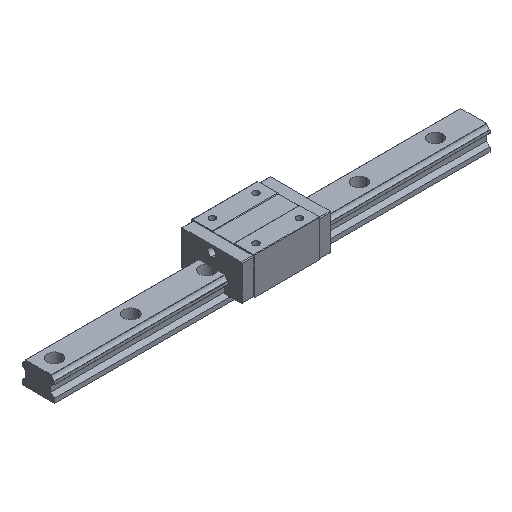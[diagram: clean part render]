
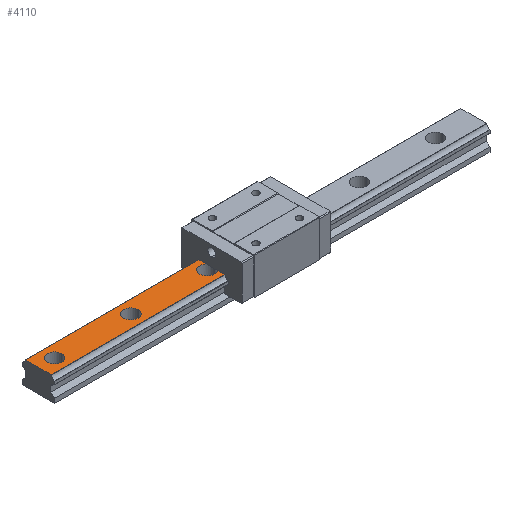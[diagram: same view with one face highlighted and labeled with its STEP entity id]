
A CAD part, isometric view. The second image highlights one B-rep face of the part: STEP entity #4110.
In plain terms, the highlighted planar face has unit normal (0, 0, 1).
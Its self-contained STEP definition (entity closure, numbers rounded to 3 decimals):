
#124 = DIRECTION ( 'NONE',  ( 1., 0., 0. ) ) ;
#164 = VERTEX_POINT ( 'NONE', #3261 ) ;
#264 = DIRECTION ( 'NONE',  ( -1., 0., 0. ) ) ;
#275 = CARTESIAN_POINT ( 'NONE',  ( -277.5, 0., 32. ) ) ;
#314 = VECTOR ( 'NONE', #4996, 1000. ) ;
#506 = CARTESIAN_POINT ( 'NONE',  ( 300., 0., 32. ) ) ;
#548 = DIRECTION ( 'NONE',  ( 0., 0., -1. ) ) ;
#563 = AXIS2_PLACEMENT_3D ( 'NONE', #1759, #2851, #4470 ) ;
#684 = DIRECTION ( 'NONE',  ( 0., 0., -1. ) ) ;
#700 = DIRECTION ( 'NONE',  ( -1., 0., 0. ) ) ;
#723 = VECTOR ( 'NONE', #1395, 1000. ) ;
#730 = CARTESIAN_POINT ( 'NONE',  ( -60.95, -25.138, 32. ) ) ;
#737 = DIRECTION ( 'NONE',  ( 0., -1., 0. ) ) ;
#774 = EDGE_LOOP ( 'NONE', ( #1889, #2889, #2881, #4081, #2468, #4819, #1961 ) ) ;
#803 = AXIS2_PLACEMENT_3D ( 'NONE', #2984, #3797, #700 ) ;
#807 = LINE ( 'NONE', #5020, #314 ) ;
#821 = AXIS2_PLACEMENT_3D ( 'NONE', #275, #3761, #2197 ) ;
#966 = EDGE_CURVE ( 'NONE', #2088, #2250, #3476, .T. ) ;
#974 = CIRCLE ( 'NONE', #2763, 10. ) ;
#1033 = EDGE_CURVE ( 'NONE', #4342, #1476, #807, .T. ) ;
#1109 = DIRECTION ( 'NONE',  ( -1., 0., 0. ) ) ;
#1131 = AXIS2_PLACEMENT_3D ( 'NONE', #4125, #3286, #264 ) ;
#1316 = DIRECTION ( 'NONE',  ( -1., 0., 0. ) ) ;
#1395 = DIRECTION ( 'NONE',  ( 0., 1., 0. ) ) ;
#1449 = EDGE_CURVE ( 'NONE', #4769, #4342, #4715, .T. ) ;
#1461 = CARTESIAN_POINT ( 'NONE',  ( -77.5, 0., 32. ) ) ;
#1476 = VERTEX_POINT ( 'NONE', #3905 ) ;
#1514 = CARTESIAN_POINT ( 'NONE',  ( -60.95, 17.738, 32. ) ) ;
#1565 = EDGE_CURVE ( 'NONE', #164, #2163, #3085, .T. ) ;
#1614 = EDGE_CURVE ( 'NONE', #1829, #1681, #974, .T. ) ;
#1641 = CARTESIAN_POINT ( 'NONE',  ( -60.95, 7.556, 32. ) ) ;
#1681 = VERTEX_POINT ( 'NONE', #4195 ) ;
#1759 = CARTESIAN_POINT ( 'NONE',  ( -67.5, 0., 32. ) ) ;
#1829 = VERTEX_POINT ( 'NONE', #3511 ) ;
#1889 = ORIENTED_EDGE ( 'NONE', *, *, #4009, .T. ) ;
#1942 = EDGE_LOOP ( 'NONE', ( #3629, #2256 ) ) ;
#1961 = ORIENTED_EDGE ( 'NONE', *, *, #1033, .T. ) ;
#2088 = VERTEX_POINT ( 'NONE', #1461 ) ;
#2163 = VERTEX_POINT ( 'NONE', #3182 ) ;
#2197 = DIRECTION ( 'NONE',  ( -1., 0., 0. ) ) ;
#2250 = VERTEX_POINT ( 'NONE', #1641 ) ;
#2256 = ORIENTED_EDGE ( 'NONE', *, *, #1614, .T. ) ;
#2346 = CIRCLE ( 'NONE', #2823, 10. ) ;
#2414 = EDGE_CURVE ( 'NONE', #2163, #164, #3010, .T. ) ;
#2437 = AXIS2_PLACEMENT_3D ( 'NONE', #506, #3264, #4765 ) ;
#2468 = ORIENTED_EDGE ( 'NONE', *, *, #3198, .F. ) ;
#2517 = LINE ( 'NONE', #3647, #4774 ) ;
#2763 = AXIS2_PLACEMENT_3D ( 'NONE', #4406, #548, #2911 ) ;
#2823 = AXIS2_PLACEMENT_3D ( 'NONE', #4588, #684, #1109 ) ;
#2851 = DIRECTION ( 'NONE',  ( 0., 0., -1. ) ) ;
#2881 = ORIENTED_EDGE ( 'NONE', *, *, #4278, .T. ) ;
#2889 = ORIENTED_EDGE ( 'NONE', *, *, #4163, .T. ) ;
#2898 = VECTOR ( 'NONE', #737, 1000. ) ;
#2911 = DIRECTION ( 'NONE',  ( -1., 0., 0. ) ) ;
#2984 = CARTESIAN_POINT ( 'NONE',  ( -67.5, 0., 32. ) ) ;
#2992 = CIRCLE ( 'NONE', #803, 10. ) ;
#3010 = CIRCLE ( 'NONE', #821, 10. ) ;
#3071 = CARTESIAN_POINT ( 'NONE',  ( -60.95, -17.738, 32. ) ) ;
#3085 = CIRCLE ( 'NONE', #1131, 10. ) ;
#3182 = CARTESIAN_POINT ( 'NONE',  ( -267.5, 0., 32. ) ) ;
#3195 = FACE_OUTER_BOUND ( 'NONE', #774, .T. ) ;
#3198 = EDGE_CURVE ( 'NONE', #4769, #2250, #3469, .T. ) ;
#3261 = CARTESIAN_POINT ( 'NONE',  ( -287.5, 0., 32. ) ) ;
#3264 = DIRECTION ( 'NONE',  ( 0., 0., -1. ) ) ;
#3286 = DIRECTION ( 'NONE',  ( 0., 0., -1. ) ) ;
#3469 = LINE ( 'NONE', #3071, #2898 ) ;
#3476 = CIRCLE ( 'NONE', #563, 10. ) ;
#3511 = CARTESIAN_POINT ( 'NONE',  ( -182.5, 0., 32. ) ) ;
#3616 = FACE_BOUND ( 'NONE', #4380, .T. ) ;
#3629 = ORIENTED_EDGE ( 'NONE', *, *, #3760, .T. ) ;
#3647 = CARTESIAN_POINT ( 'NONE',  ( 300., -17.738, 32. ) ) ;
#3760 = EDGE_CURVE ( 'NONE', #1681, #1829, #2346, .T. ) ;
#3761 = DIRECTION ( 'NONE',  ( 0., 0., -1. ) ) ;
#3797 = DIRECTION ( 'NONE',  ( 0., 0., -1. ) ) ;
#3905 = CARTESIAN_POINT ( 'NONE',  ( -300., -17.738, 32. ) ) ;
#4009 = EDGE_CURVE ( 'NONE', #1476, #4948, #2517, .T. ) ;
#4052 = VECTOR ( 'NONE', #1316, 1000. ) ;
#4081 = ORIENTED_EDGE ( 'NONE', *, *, #966, .T. ) ;
#4110 = ADVANCED_FACE ( 'NONE', ( #3616, #4407, #3195 ), #4741, .F. ) ;
#4125 = CARTESIAN_POINT ( 'NONE',  ( -277.5, 0., 32. ) ) ;
#4163 = EDGE_CURVE ( 'NONE', #4948, #4563, #4868, .T. ) ;
#4195 = CARTESIAN_POINT ( 'NONE',  ( -162.5, 0., 32. ) ) ;
#4278 = EDGE_CURVE ( 'NONE', #4563, #2088, #2992, .T. ) ;
#4306 = CARTESIAN_POINT ( 'NONE',  ( 300., 17.738, 32. ) ) ;
#4333 = ORIENTED_EDGE ( 'NONE', *, *, #2414, .T. ) ;
#4342 = VERTEX_POINT ( 'NONE', #4658 ) ;
#4380 = EDGE_LOOP ( 'NONE', ( #4333, #4954 ) ) ;
#4406 = CARTESIAN_POINT ( 'NONE',  ( -172.5, 0., 32. ) ) ;
#4407 = FACE_BOUND ( 'NONE', #1942, .T. ) ;
#4470 = DIRECTION ( 'NONE',  ( -1., 0., 0. ) ) ;
#4563 = VERTEX_POINT ( 'NONE', #4809 ) ;
#4588 = CARTESIAN_POINT ( 'NONE',  ( -172.5, 0., 32. ) ) ;
#4658 = CARTESIAN_POINT ( 'NONE',  ( -300., 17.738, 32. ) ) ;
#4704 = CARTESIAN_POINT ( 'NONE',  ( -60.95, -17.738, 32. ) ) ;
#4715 = LINE ( 'NONE', #4306, #4052 ) ;
#4741 = PLANE ( 'NONE',  #2437 ) ;
#4765 = DIRECTION ( 'NONE',  ( 0., -1., 0. ) ) ;
#4769 = VERTEX_POINT ( 'NONE', #1514 ) ;
#4774 = VECTOR ( 'NONE', #124, 1000. ) ;
#4809 = CARTESIAN_POINT ( 'NONE',  ( -60.95, -7.556, 32. ) ) ;
#4819 = ORIENTED_EDGE ( 'NONE', *, *, #1449, .T. ) ;
#4868 = LINE ( 'NONE', #730, #723 ) ;
#4948 = VERTEX_POINT ( 'NONE', #4704 ) ;
#4954 = ORIENTED_EDGE ( 'NONE', *, *, #1565, .T. ) ;
#4996 = DIRECTION ( 'NONE',  ( 0., -1., 0. ) ) ;
#5020 = CARTESIAN_POINT ( 'NONE',  ( -300., 0., 32. ) ) ;
